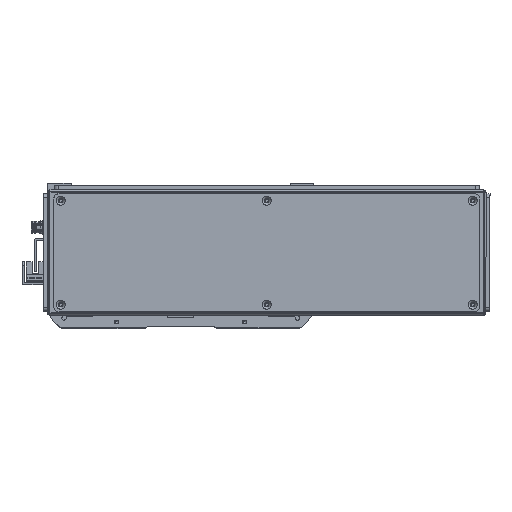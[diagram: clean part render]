
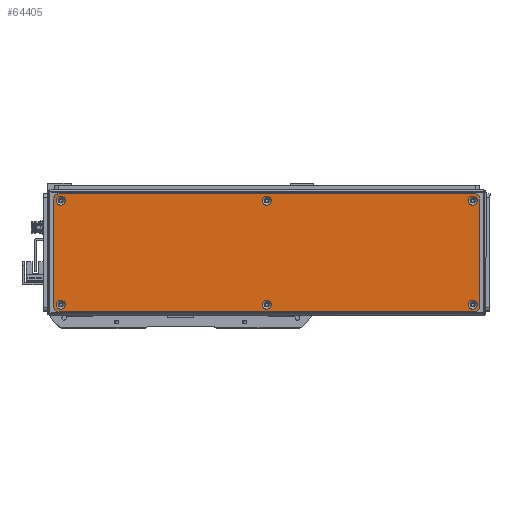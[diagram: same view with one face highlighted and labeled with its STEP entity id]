
A CAD part, front view. The second image highlights one B-rep face of the part: STEP entity #64405.
In plain terms, the highlighted planar face has unit normal (0, -1, 0).
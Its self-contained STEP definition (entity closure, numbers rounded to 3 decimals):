
#2657=FACE_BOUND('',#10785,.T.);
#2658=FACE_BOUND('',#10786,.T.);
#2659=FACE_BOUND('',#10787,.T.);
#2660=FACE_BOUND('',#10788,.T.);
#2661=FACE_BOUND('',#10789,.T.);
#2662=FACE_BOUND('',#10790,.T.);
#3885=CIRCLE('',#69214,3.45);
#3888=CIRCLE('',#69219,3.45);
#3891=CIRCLE('',#69224,3.45);
#3894=CIRCLE('',#69229,3.45);
#3897=CIRCLE('',#69234,3.45);
#3900=CIRCLE('',#69239,3.45);
#3903=CIRCLE('',#69244,3.);
#3905=CIRCLE('',#69247,3.);
#3906=CIRCLE('',#69248,3.);
#3907=CIRCLE('',#69249,3.);
#7106=FACE_OUTER_BOUND('',#10784,.T.);
#10784=EDGE_LOOP('',(#57271,#57272,#57273,#57274,#57275,#57276,#57277,#57278));
#10785=EDGE_LOOP('',(#57279));
#10786=EDGE_LOOP('',(#57280));
#10787=EDGE_LOOP('',(#57281));
#10788=EDGE_LOOP('',(#57282));
#10789=EDGE_LOOP('',(#57283));
#10790=EDGE_LOOP('',(#57284));
#18014=LINE('',#105146,#25348);
#18015=LINE('',#105150,#25349);
#18016=LINE('',#105154,#25350);
#18017=LINE('',#105157,#25351);
#25348=VECTOR('',#84979,10.);
#25349=VECTOR('',#84982,10.);
#25350=VECTOR('',#84985,10.);
#25351=VECTOR('',#84988,10.);
#31314=VERTEX_POINT('',#105076);
#31317=VERTEX_POINT('',#105086);
#31320=VERTEX_POINT('',#105096);
#31323=VERTEX_POINT('',#105106);
#31326=VERTEX_POINT('',#105116);
#31329=VERTEX_POINT('',#105126);
#31332=VERTEX_POINT('',#105136);
#31333=VERTEX_POINT('',#105137);
#31336=VERTEX_POINT('',#105145);
#31337=VERTEX_POINT('',#105147);
#31338=VERTEX_POINT('',#105149);
#31339=VERTEX_POINT('',#105151);
#31340=VERTEX_POINT('',#105153);
#31341=VERTEX_POINT('',#105155);
#40048=EDGE_CURVE('',#31314,#31314,#3885,.T.);
#40053=EDGE_CURVE('',#31317,#31317,#3888,.T.);
#40058=EDGE_CURVE('',#31320,#31320,#3891,.T.);
#40063=EDGE_CURVE('',#31323,#31323,#3894,.T.);
#40068=EDGE_CURVE('',#31326,#31326,#3897,.T.);
#40073=EDGE_CURVE('',#31329,#31329,#3900,.T.);
#40078=EDGE_CURVE('',#31332,#31333,#3903,.T.);
#40082=EDGE_CURVE('',#31332,#31336,#18014,.T.);
#40083=EDGE_CURVE('',#31337,#31336,#3905,.T.);
#40084=EDGE_CURVE('',#31337,#31338,#18015,.T.);
#40085=EDGE_CURVE('',#31339,#31338,#3906,.T.);
#40086=EDGE_CURVE('',#31339,#31340,#18016,.T.);
#40087=EDGE_CURVE('',#31341,#31340,#3907,.T.);
#40088=EDGE_CURVE('',#31341,#31333,#18017,.T.);
#57271=ORIENTED_EDGE('',*,*,#40078,.F.);
#57272=ORIENTED_EDGE('',*,*,#40082,.T.);
#57273=ORIENTED_EDGE('',*,*,#40083,.F.);
#57274=ORIENTED_EDGE('',*,*,#40084,.T.);
#57275=ORIENTED_EDGE('',*,*,#40085,.F.);
#57276=ORIENTED_EDGE('',*,*,#40086,.T.);
#57277=ORIENTED_EDGE('',*,*,#40087,.F.);
#57278=ORIENTED_EDGE('',*,*,#40088,.T.);
#57279=ORIENTED_EDGE('',*,*,#40048,.T.);
#57280=ORIENTED_EDGE('',*,*,#40053,.T.);
#57281=ORIENTED_EDGE('',*,*,#40058,.T.);
#57282=ORIENTED_EDGE('',*,*,#40063,.T.);
#57283=ORIENTED_EDGE('',*,*,#40068,.T.);
#57284=ORIENTED_EDGE('',*,*,#40073,.T.);
#61324=PLANE('',#69246);
#64405=ADVANCED_FACE('',(#7106,#2657,#2658,#2659,#2660,#2661,#2662),#61324,
 .T.);
#69214=AXIS2_PLACEMENT_3D('',#105077,#84899,#84900);
#69219=AXIS2_PLACEMENT_3D('',#105087,#84911,#84912);
#69224=AXIS2_PLACEMENT_3D('',#105097,#84923,#84924);
#69229=AXIS2_PLACEMENT_3D('',#105107,#84935,#84936);
#69234=AXIS2_PLACEMENT_3D('',#105117,#84947,#84948);
#69239=AXIS2_PLACEMENT_3D('',#105127,#84959,#84960);
#69244=AXIS2_PLACEMENT_3D('',#105138,#84971,#84972);
#69246=AXIS2_PLACEMENT_3D('',#105144,#84977,#84978);
#69247=AXIS2_PLACEMENT_3D('',#105148,#84980,#84981);
#69248=AXIS2_PLACEMENT_3D('',#105152,#84983,#84984);
#69249=AXIS2_PLACEMENT_3D('',#105156,#84986,#84987);
#84899=DIRECTION('center_axis',(0.,1.,0.));
#84900=DIRECTION('ref_axis',(1.,0.,0.));
#84911=DIRECTION('center_axis',(0.,1.,0.));
#84912=DIRECTION('ref_axis',(1.,0.,0.));
#84923=DIRECTION('center_axis',(0.,1.,0.));
#84924=DIRECTION('ref_axis',(1.,0.,0.));
#84935=DIRECTION('center_axis',(0.,1.,0.));
#84936=DIRECTION('ref_axis',(1.,0.,0.));
#84947=DIRECTION('center_axis',(0.,1.,0.));
#84948=DIRECTION('ref_axis',(1.,0.,0.));
#84959=DIRECTION('center_axis',(0.,1.,0.));
#84960=DIRECTION('ref_axis',(1.,0.,0.));
#84971=DIRECTION('center_axis',(0.,1.,0.));
#84972=DIRECTION('ref_axis',(-0.707,0.,0.707));
#84977=DIRECTION('center_axis',(0.,-1.,0.));
#84978=DIRECTION('ref_axis',(0.,0.,-1.));
#84979=DIRECTION('',(0.,0.,-1.));
#84980=DIRECTION('center_axis',(0.,1.,0.));
#84981=DIRECTION('ref_axis',(-0.707,0.,-0.707));
#84982=DIRECTION('',(1.,0.,0.));
#84983=DIRECTION('center_axis',(0.,1.,0.));
#84984=DIRECTION('ref_axis',(0.707,0.,-0.707));
#84985=DIRECTION('',(0.,0.,1.));
#84986=DIRECTION('center_axis',(0.,1.,0.));
#84987=DIRECTION('ref_axis',(0.707,0.,0.707));
#84988=DIRECTION('',(-1.,0.,0.));
#105076=CARTESIAN_POINT('',(151.05,-1.5,39.));
#105077=CARTESIAN_POINT('Origin',(154.5,-1.5,39.));
#105086=CARTESIAN_POINT('',(-3.45,-1.5,39.));
#105087=CARTESIAN_POINT('Origin',(0.,-1.5,39.));
#105096=CARTESIAN_POINT('',(-157.95,-1.5,39.));
#105097=CARTESIAN_POINT('Origin',(-154.5,-1.5,39.));
#105106=CARTESIAN_POINT('',(-157.95,-1.5,-39.));
#105107=CARTESIAN_POINT('Origin',(-154.5,-1.5,-39.));
#105116=CARTESIAN_POINT('',(-3.45,-1.5,-39.));
#105117=CARTESIAN_POINT('Origin',(0.,-1.5,-39.));
#105126=CARTESIAN_POINT('',(151.05,-1.5,-39.));
#105127=CARTESIAN_POINT('Origin',(154.5,-1.5,-39.));
#105136=CARTESIAN_POINT('',(-159.5,-1.5,41.));
#105137=CARTESIAN_POINT('',(-156.5,-1.5,44.));
#105138=CARTESIAN_POINT('Origin',(-156.5,-1.5,41.));
#105144=CARTESIAN_POINT('Origin',(0.,-1.5,0.));
#105145=CARTESIAN_POINT('',(-159.5,-1.5,-41.));
#105146=CARTESIAN_POINT('',(-159.5,-1.5,44.));
#105147=CARTESIAN_POINT('',(-156.5,-1.5,-44.));
#105148=CARTESIAN_POINT('Origin',(-156.5,-1.5,-41.));
#105149=CARTESIAN_POINT('',(156.5,-1.5,-44.));
#105150=CARTESIAN_POINT('',(-159.5,-1.5,-44.));
#105151=CARTESIAN_POINT('',(159.5,-1.5,-41.));
#105152=CARTESIAN_POINT('Origin',(156.5,-1.5,-41.));
#105153=CARTESIAN_POINT('',(159.5,-1.5,41.));
#105154=CARTESIAN_POINT('',(159.5,-1.5,-44.));
#105155=CARTESIAN_POINT('',(156.5,-1.5,44.));
#105156=CARTESIAN_POINT('Origin',(156.5,-1.5,41.));
#105157=CARTESIAN_POINT('',(159.5,-1.5,44.));
